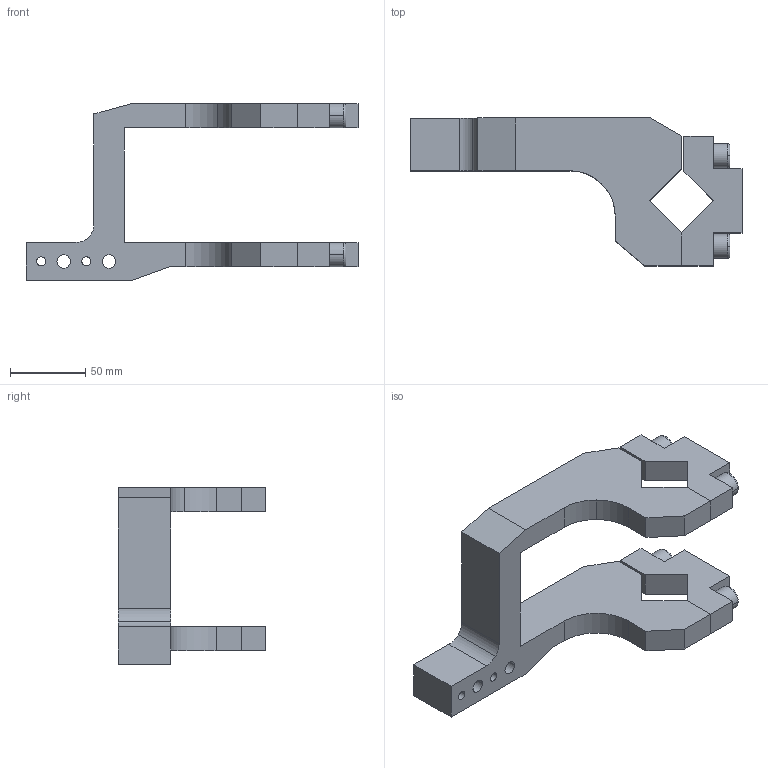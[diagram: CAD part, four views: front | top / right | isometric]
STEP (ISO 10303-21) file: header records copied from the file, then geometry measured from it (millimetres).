
FILE_DESCRIPTION((''),'2;1');
FILE_NAME('S:\Matthew\Step Files\XM Clamp Arms\XJ80-CAR-01.stp','2006-06-28T08:21:25',('Matthew'),(''),'Autodesk Inventor 8','Autodesk Inventor 8','');
FILE_SCHEMA(('AUTOMOTIVE_DESIGN { 1 0 10303 214 1 1 1 1 }'));
Length unit declared in the file: millimetre
Products named in the file (1): XJ80-CAR-01
Bounding box: 220 x 98 x 117 mm (x, y, z)
Volume: 382051.8 mm3; surface area: 82024.9 mm2
Topology: 1 solids, 3 shells, 118 faces, 310 edges, 196 vertices
Faces by surface type: plane 65, bspline 24, cylinder 21, torus 8
Entity records: 3935 total; most frequent: CARTESIAN_POINT 1025, ORIENTED_EDGE 604, DIRECTION 602, EDGE_CURVE 302, AXIS2_PLACEMENT_3D 205, VERTEX_POINT 196, VECTOR 192, LINE 192
